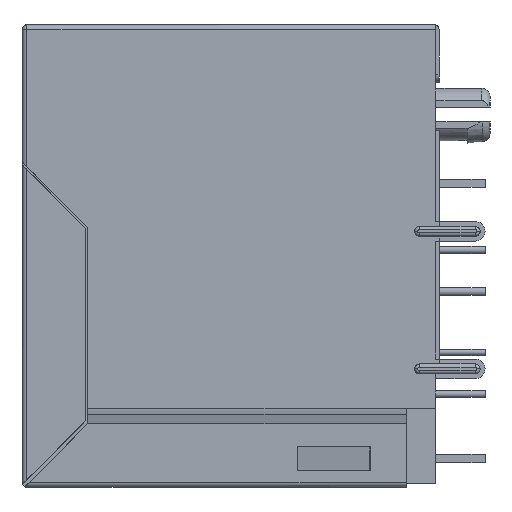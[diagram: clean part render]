
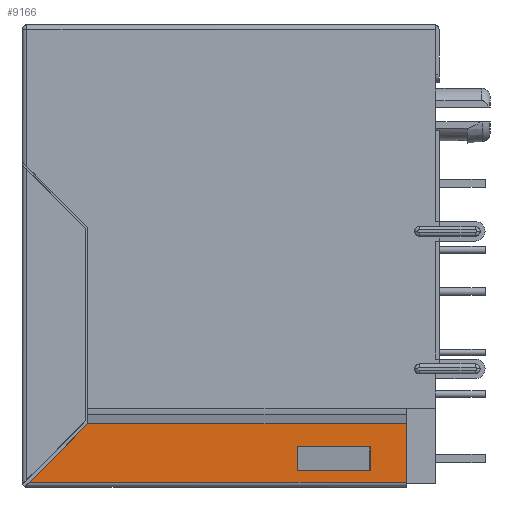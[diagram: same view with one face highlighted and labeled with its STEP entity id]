
A CAD part, left-side view. The second image highlights one B-rep face of the part: STEP entity #9166.
In plain terms, the highlighted planar face has unit normal (-1, 0, 0).
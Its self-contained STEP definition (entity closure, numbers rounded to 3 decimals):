
#1027 = VERTEX_POINT ( 'NONE', #51493 ) ;
#1197 = VECTOR ( 'NONE', #28549, 1000. ) ;
#1479 = VERTEX_POINT ( 'NONE', #50310 ) ;
#2095 = ORIENTED_EDGE ( 'NONE', *, *, #49119, .F. ) ;
#2395 = EDGE_CURVE ( 'NONE', #1027, #9530, #37918, .T. ) ;
#3121 = CARTESIAN_POINT ( 'NONE',  ( -7.348, 14.969, -14.415 ) ) ;
#3484 = DIRECTION ( 'NONE',  ( 0., -1., 0. ) ) ;
#4255 = CARTESIAN_POINT ( 'NONE',  ( -7.348, -8.622, -14.075 ) ) ;
#4567 = EDGE_CURVE ( 'NONE', #40129, #7775, #23989, .T. ) ;
#6485 = VECTOR ( 'NONE', #30570, 1000. ) ;
#6551 = DIRECTION ( 'NONE',  ( 0., 0., -1. ) ) ;
#6674 = LINE ( 'NONE', #23832, #13102 ) ;
#7423 = FACE_OUTER_BOUND ( 'NONE', #46701, .T. ) ;
#7716 = VECTOR ( 'NONE', #7890, 1000. ) ;
#7775 = VERTEX_POINT ( 'NONE', #14189 ) ;
#7890 = DIRECTION ( 'NONE',  ( 0., -0.707, 0.707 ) ) ;
#8848 = AXIS2_PLACEMENT_3D ( 'NONE', #41719, #41169, #50454 ) ;
#9081 = ORIENTED_EDGE ( 'NONE', *, *, #13627, .F. ) ;
#9166 = ADVANCED_FACE ( 'NONE', ( #24307, #7423 ), #45399, .F. ) ;
#9530 = VERTEX_POINT ( 'NONE', #50094 ) ;
#12979 = VERTEX_POINT ( 'NONE', #22433 ) ;
#13102 = VECTOR ( 'NONE', #36751, 1000. ) ;
#13627 = EDGE_CURVE ( 'NONE', #55607, #9530, #47547, .T. ) ;
#14189 = CARTESIAN_POINT ( 'NONE',  ( -7.348, -1.972, -13.075 ) ) ;
#14386 = DIRECTION ( 'NONE',  ( 0., 0., 1. ) ) ;
#15259 = CARTESIAN_POINT ( 'NONE',  ( -7.348, -1.972, -11.575 ) ) ;
#16603 = ORIENTED_EDGE ( 'NONE', *, *, #50623, .F. ) ;
#18165 = VECTOR ( 'NONE', #6551, 1000. ) ;
#18608 = CARTESIAN_POINT ( 'NONE',  ( -7.348, -6.422, -13.075 ) ) ;
#22433 = CARTESIAN_POINT ( 'NONE',  ( -7.348, -6.422, -11.575 ) ) ;
#23326 = EDGE_CURVE ( 'NONE', #12979, #40129, #6674, .T. ) ;
#23589 = ORIENTED_EDGE ( 'NONE', *, *, #23326, .F. ) ;
#23777 = VECTOR ( 'NONE', #25358, 1000. ) ;
#23832 = CARTESIAN_POINT ( 'NONE',  ( -7.348, -6.422, -11.575 ) ) ;
#23989 = LINE ( 'NONE', #15259, #18165 ) ;
#24307 = FACE_BOUND ( 'NONE', #41850, .T. ) ;
#25052 = EDGE_CURVE ( 'NONE', #1027, #1479, #54302, .T. ) ;
#25344 = ORIENTED_EDGE ( 'NONE', *, *, #4567, .F. ) ;
#25358 = DIRECTION ( 'NONE',  ( 0., 0., -1. ) ) ;
#27751 = VECTOR ( 'NONE', #14386, 1000. ) ;
#28549 = DIRECTION ( 'NONE',  ( 0., -1., 0. ) ) ;
#30436 = ORIENTED_EDGE ( 'NONE', *, *, #25052, .F. ) ;
#30570 = DIRECTION ( 'NONE',  ( 0., -1., 0. ) ) ;
#34174 = LINE ( 'NONE', #51332, #1197 ) ;
#34310 = CARTESIAN_POINT ( 'NONE',  ( -7.348, -1.972, -11.575 ) ) ;
#36751 = DIRECTION ( 'NONE',  ( 0., 1., 0. ) ) ;
#37918 = LINE ( 'NONE', #43236, #6485 ) ;
#38080 = LINE ( 'NONE', #55496, #44991 ) ;
#40129 = VERTEX_POINT ( 'NONE', #34310 ) ;
#41169 = DIRECTION ( 'NONE',  ( 1., 0., 0. ) ) ;
#41719 = CARTESIAN_POINT ( 'NONE',  ( -7.348, 14.778, 14.075 ) ) ;
#41850 = EDGE_LOOP ( 'NONE', ( #25344, #23589, #16603, #2095 ) ) ;
#42935 = CARTESIAN_POINT ( 'NONE',  ( -7.348, -8.622, -10.223 ) ) ;
#43236 = CARTESIAN_POINT ( 'NONE',  ( -7.348, 14.778, -13.775 ) ) ;
#44991 = VECTOR ( 'NONE', #3484, 1000. ) ;
#45059 = ORIENTED_EDGE ( 'NONE', *, *, #2395, .T. ) ;
#45399 = PLANE ( 'NONE',  #8848 ) ;
#46701 = EDGE_LOOP ( 'NONE', ( #30436, #45059, #9081, #54521 ) ) ;
#46897 = CARTESIAN_POINT ( 'NONE',  ( -7.348, -6.422, -13.075 ) ) ;
#47547 = LINE ( 'NONE', #4255, #23777 ) ;
#47870 = LINE ( 'NONE', #18608, #27751 ) ;
#49119 = EDGE_CURVE ( 'NONE', #7775, #53522, #38080, .T. ) ;
#50094 = CARTESIAN_POINT ( 'NONE',  ( -7.348, -8.622, -13.775 ) ) ;
#50226 = EDGE_CURVE ( 'NONE', #1479, #55607, #34174, .T. ) ;
#50310 = CARTESIAN_POINT ( 'NONE',  ( -7.348, 10.778, -10.223 ) ) ;
#50454 = DIRECTION ( 'NONE',  ( 0., 1., 0. ) ) ;
#50623 = EDGE_CURVE ( 'NONE', #53522, #12979, #47870, .T. ) ;
#51332 = CARTESIAN_POINT ( 'NONE',  ( -7.348, 11.553, -10.223 ) ) ;
#51493 = CARTESIAN_POINT ( 'NONE',  ( -7.348, 14.33, -13.775 ) ) ;
#53522 = VERTEX_POINT ( 'NONE', #46897 ) ;
#54302 = LINE ( 'NONE', #3121, #7716 ) ;
#54521 = ORIENTED_EDGE ( 'NONE', *, *, #50226, .F. ) ;
#55496 = CARTESIAN_POINT ( 'NONE',  ( -7.348, -1.972, -13.075 ) ) ;
#55607 = VERTEX_POINT ( 'NONE', #42935 ) ;
